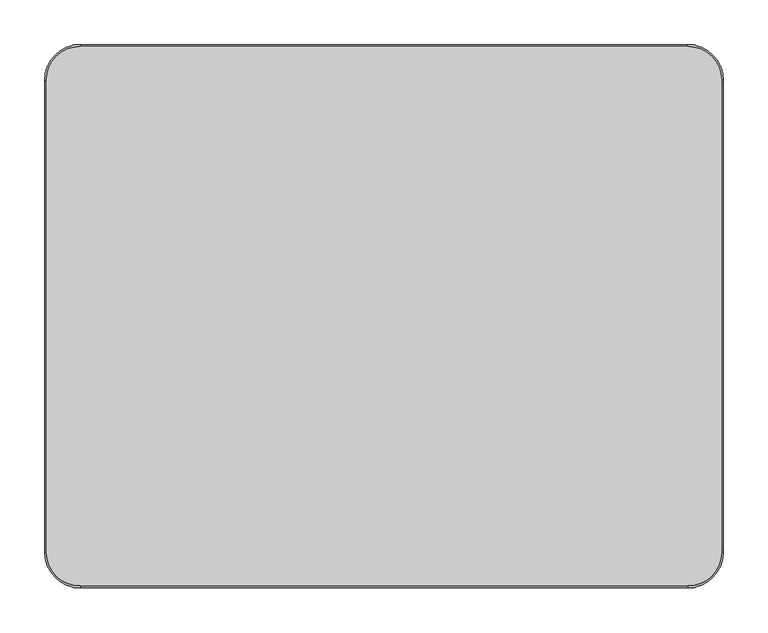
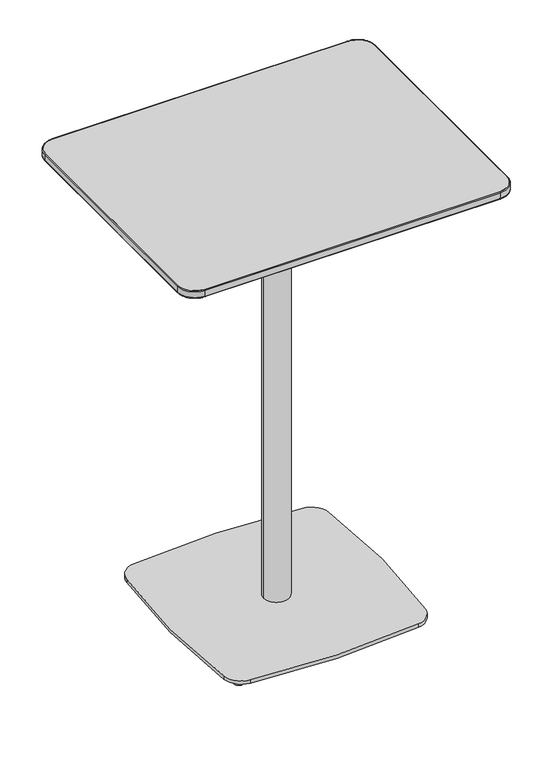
"""IFC4 building model written with IfcOpenShell, lengths in millimetres: furniture geometry, Coalesse_AM_Table_Occasional_Montara650Table_CafeHeight_Rectangular : Bar Height - 24D x 30W."""

from ifc_helpers import new_model, si_unit, point, frame, frame_2d, origin, place, context, project, spatial, polyline, circle_curve, ellipse_curve, trimmed, segment, composite_curve, outline, extrude, source, transform, mapped, element, save
from ifc_brep_helpers import plane_surface, cylinder_surface, revolved_surface, spline_surface, advanced_brep


def furniture_10a75f7b(model_context):
    return source(origin(), model_context, "Body", "SolidModel", [
        advanced_brep(
        [(-738.6535608, 215.2429015, 0.0), (-738.6535608, 194.5411546, 0.0), (-738.6535608, 219.370028, 11.9999882), (-738.6535608, 190.414028, 11.9999882)],
        [
            (0, 1, circle_curve(frame((-738.6535608, 204.892028, 0.0), z_axis=(0.0, 0.0, -1.0), x_axis=(0.0, 1.0, 0.0)), 10.3508735)),
            (1, 0, circle_curve(frame((-738.6535608, 204.892028, 0.0), z_axis=(0.0, 0.0, -1.0), x_axis=(0.0, -1.0, 0.0)), 10.3508735)),
            (2, 3, circle_curve(frame((-738.6535608, 204.892028, 11.9999882), z_axis=(0.0, 0.0, 1.0), x_axis=(0.0, -1.0, 0.0)), 14.478)),
            (3, 2, circle_curve(frame((-738.6535608, 204.892028, 11.9999882), z_axis=(0.0, 0.0, 1.0), x_axis=(0.0, 1.0, 0.0)), 14.478)),
            (2, 0),
            (1, 3),
        ],
        [
            plane_surface(frame((-738.6535608, 204.892028, 0.0), z_axis=(0.0, 0.0, -1.0), x_axis=(-1.0, 0.0, 0.0))),
            plane_surface(frame((-738.6535608, 204.892028, 11.9999882), z_axis=(0.0, 0.0, 1.0), x_axis=(-1.0, 0.0, 0.0))),
            revolved_surface(polyline([(-738.6535608, 194.5411545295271, 0.0), (-738.6535608, 190.414028, 11.999988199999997)]), (-738.6535608, 204.892028, -30.0960871), (0.0, 0.0, 1.0)),
            revolved_surface(polyline([(-738.6535608, 215.2429014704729, 0.0), (-738.6535608, 219.370028, 11.999988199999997)]), (-738.6535608, 204.892028, -30.0960871), (0.0, 0.0, 1.0)),
        ],
        [
            (0, [[1, 2]]),
            (1, [[3, 4]]),
            (2, [[-3, 5, -2, 6]]),
            (3, [[-4, -6, -1, -5]]),
        ],
    ),
        advanced_brep(
        [(-738.6535608, -194.5411546, 0.0), (-738.6535608, -215.2429015, 0.0), (-738.6535608, -190.414028, 11.9999882), (-738.6535608, -219.370028, 11.9999882)],
        [
            (0, 1, circle_curve(frame((-738.6535608, -204.892028, 0.0), z_axis=(0.0, 0.0, -1.0), x_axis=(0.0, 1.0, 0.0)), 10.3508735)),
            (1, 0, circle_curve(frame((-738.6535608, -204.892028, 0.0), z_axis=(0.0, 0.0, -1.0), x_axis=(0.0, -1.0, 0.0)), 10.3508735)),
            (2, 3, circle_curve(frame((-738.6535608, -204.892028, 11.9999882), z_axis=(0.0, 0.0, 1.0), x_axis=(0.0, -1.0, 0.0)), 14.478)),
            (3, 2, circle_curve(frame((-738.6535608, -204.892028, 11.9999882), z_axis=(0.0, 0.0, 1.0), x_axis=(0.0, 1.0, 0.0)), 14.478)),
            (3, 1),
            (0, 2),
        ],
        [
            plane_surface(frame((-738.6535608, -204.892028, 0.0), z_axis=(0.0, 0.0, -1.0), x_axis=(-1.0, 0.0, 0.0))),
            plane_surface(frame((-738.6535608, -204.892028, 11.9999882), z_axis=(0.0, 0.0, 1.0), x_axis=(-1.0, 0.0, 0.0))),
            revolved_surface(polyline([(-738.6535608, -194.5411545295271, 0.0), (-738.6535608, -190.414028, 11.999988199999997)]), (-738.6535608, -204.892028, -30.0960871), (0.0, 0.0, 1.0)),
            revolved_surface(polyline([(-738.6535608, -215.2429014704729, 0.0), (-738.6535608, -219.370028, 11.999988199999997)]), (-738.6535608, -204.892028, -30.0960871), (0.0, 0.0, 1.0)),
        ],
        [
            (0, [[1, 2]]),
            (1, [[3, 4]]),
            (2, [[-4, 5, -1, 6]]),
            (3, [[-3, -6, -2, -5]]),
        ],
    ),
        advanced_brep(
        [(-328.1464392, 194.5411546, 0.0), (-328.1464392, 215.2429015, 0.0), (-328.1464392, 190.414028, 11.9999882), (-328.1464392, 219.370028, 11.9999882)],
        [
            (0, 1, circle_curve(frame((-328.1464392, 204.892028, 0.0), z_axis=(0.0, 0.0, -1.0), x_axis=(0.0, -1.0, 0.0)), 10.3508735)),
            (1, 0, circle_curve(frame((-328.1464392, 204.892028, 0.0), z_axis=(0.0, 0.0, -1.0), x_axis=(0.0, 1.0, 0.0)), 10.3508735)),
            (2, 3, circle_curve(frame((-328.1464392, 204.892028, 11.9999882), z_axis=(0.0, 0.0, 1.0), x_axis=(0.0, 1.0, 0.0)), 14.478)),
            (3, 2, circle_curve(frame((-328.1464392, 204.892028, 11.9999882), z_axis=(0.0, 0.0, 1.0), x_axis=(0.0, -1.0, 0.0)), 14.478)),
            (3, 1),
            (0, 2),
        ],
        [
            plane_surface(frame((-328.1464392, 204.892028, 0.0), z_axis=(0.0, 0.0, -1.0), x_axis=(1.0, 0.0, 0.0))),
            plane_surface(frame((-328.1464392, 204.892028, 11.9999882), z_axis=(0.0, 0.0, 1.0), x_axis=(1.0, 0.0, 0.0))),
            revolved_surface(polyline([(-328.1464392, 194.5411545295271, 0.0), (-328.1464392, 190.414028, 11.999988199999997)]), (-328.1464392, 204.892028, -30.0960871), (0.0, 0.0, 1.0)),
            revolved_surface(polyline([(-328.1464392, 215.2429014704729, 0.0), (-328.1464392, 219.370028, 11.999988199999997)]), (-328.1464392, 204.892028, -30.0960871), (0.0, 0.0, 1.0)),
        ],
        [
            (0, [[1, 2]]),
            (1, [[3, 4]]),
            (2, [[-4, 5, -1, 6]]),
            (3, [[-3, -6, -2, -5]]),
        ],
    ),
        advanced_brep(
        [(-328.1464392, -215.2429015, 0.0), (-328.1464392, -194.5411546, 0.0), (-328.1464392, -219.370028, 11.9999882), (-328.1464392, -190.414028, 11.9999882)],
        [
            (0, 1, circle_curve(frame((-328.1464392, -204.892028, 0.0), z_axis=(0.0, 0.0, -1.0), x_axis=(0.0, -1.0, 0.0)), 10.3508735)),
            (1, 0, circle_curve(frame((-328.1464392, -204.892028, 0.0), z_axis=(0.0, 0.0, -1.0), x_axis=(0.0, 1.0, 0.0)), 10.3508735)),
            (2, 3, circle_curve(frame((-328.1464392, -204.892028, 11.9999882), z_axis=(0.0, 0.0, 1.0), x_axis=(0.0, 1.0, 0.0)), 14.478)),
            (3, 2, circle_curve(frame((-328.1464392, -204.892028, 11.9999882), z_axis=(0.0, 0.0, 1.0), x_axis=(0.0, -1.0, 0.0)), 14.478)),
            (2, 0),
            (1, 3),
        ],
        [
            plane_surface(frame((-328.1464392, -204.892028, 0.0), z_axis=(0.0, 0.0, -1.0), x_axis=(1.0, 0.0, 0.0))),
            plane_surface(frame((-328.1464392, -204.892028, 11.9999882), z_axis=(0.0, 0.0, 1.0), x_axis=(1.0, 0.0, 0.0))),
            revolved_surface(polyline([(-328.1464392, -194.5411545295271, 0.0), (-328.1464392, -190.414028, 11.999988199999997)]), (-328.1464392, -204.892028, -30.0960871), (0.0, 0.0, 1.0)),
            revolved_surface(polyline([(-328.1464392, -215.2429014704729, 0.0), (-328.1464392, -219.370028, 11.999988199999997)]), (-328.1464392, -204.892028, -30.0960871), (0.0, 0.0, 1.0)),
        ],
        [
            (0, [[1, 2]]),
            (1, [[3, 4]]),
            (2, [[-3, 5, -2, 6]]),
            (3, [[-4, -6, -1, -5]]),
        ],
    ),
        extrude(outline(composite_curve([segment(trimmed(circle_curve(frame_2d((-344.0811518, 188.9781952)), 44.45), [point((-338.9758413, 233.1340363))], [point((-299.9290283, 194.115557))], False, "CARTESIAN"), True, "CONTINUOUS"), segment(trimmed(circle_curve(frame_2d((-1930.9488879, 4.3367087)), 1642.0236885), [point((-299.9290283, 194.115557))], [point((-300.9116252, -193.704489))], False, "CARTESIAN"), True, "CONTINUOUS"), segment(trimmed(circle_curve(frame_2d((-345.0371496, -188.3434633)), 44.45), [point((-300.9116252, -193.704489))], [point((-339.4996689, -232.4471911))], False, "CARTESIAN"), True, "CONTINUOUS"), segment(trimmed(circle_curve(frame_2d((-537.7367152, 1346.4283112)), 1591.2717488), [point((-339.4996689, -232.4471911))], [point((-727.977927, -233.4305622))], False, "CARTESIAN"), True, "CONTINUOUS"), segment(trimmed(circle_curve(frame_2d((-722.663799, -189.2993652)), 44.45), [point((-727.977927, -233.4305622))], [point((-766.838325, -194.2403925))], False, "CARTESIAN"), True, "CONTINUOUS"), segment(trimmed(circle_curve(frame_2d((969.7397991, 5.89e-05)), 1747.4074894), [point((-766.838325, -194.2403925))], [point((-766.8410299, 194.2163254))], False, "CARTESIAN"), True, "CONTINUOUS"), segment(trimmed(circle_curve(frame_2d((-722.6664351, 189.2759133)), 44.45), [point((-766.8410299, 194.2163254))], [point((-727.7022914, 233.4397294))], False, "CARTESIAN"), True, "CONTINUOUS"), segment(trimmed(circle_curve(frame_2d((-534.6702107, -1459.4269529)), 1703.8365498), [point((-727.7022914, 233.4397294))], [point((-338.9758413, 233.1340363))], False, "CARTESIAN"), True, "CONTINUOUS")], self_intersect=False)), frame((0.0, 0.0, 11.999986), z_axis=(0.0, 0.0, 1.0), x_axis=(1.0, 0.0, 0.0)), (0.0, 0.0, 1.0), 8.0000105),
        advanced_brep(
        [(-217.3373638, 239.8635082, 1036.830027), (-217.3373638, -239.8635082, 1036.830027), (-849.4626362, -239.8635082, 1036.830027), (-849.4626362, 239.8635082, 1036.830027), (-192.611375, 302.768, 1049.095891), (-874.188625, 302.768, 1049.095891), (-912.288625, 264.668, 1049.095891), (-912.288625, -264.668, 1049.095891), (-874.188625, -302.768, 1049.095891), (-192.611375, -302.768, 1049.095891), (-154.511375, -264.668, 1049.095891), (-154.511375, 264.668, 1049.095891)],
        [
            (0, 1),
            (1, 2),
            (2, 3),
            (3, 0),
            (4, 5),
            (5, 6, circle_curve(frame((-874.188625, 264.668, 1049.095891), z_axis=(0.0, 0.0, 1.0), x_axis=(1.0, 0.0, 0.0)), 38.1)),
            (6, 7),
            (7, 8, circle_curve(frame((-874.188625, -264.668, 1049.095891), z_axis=(0.0, 0.0, 1.0), x_axis=(1.0, 0.0, 0.0)), 38.1)),
            (8, 9),
            (9, 10, circle_curve(frame((-192.611375, -264.668, 1049.095891), z_axis=(0.0, 0.0, 1.0), x_axis=(1.0, 0.0, 0.0)), 38.1)),
            (10, 11),
            (11, 4, circle_curve(frame((-192.611375, 264.668, 1049.095891), z_axis=(0.0, 0.0, 1.0), x_axis=(1.0, 0.0, 0.0)), 38.1)),
            (11, 0),
            (0, 4),
            (10, 1),
            (9, 1),
            (8, 2),
            (7, 2),
            (6, 3),
            (5, 3),
        ],
        [
            plane_surface(frame((-533.4, 0.0, 1036.830027), z_axis=(0.0, 0.0, -1.0), x_axis=(-1.0, 0.0, 0.0))),
            plane_surface(frame((-533.4, 0.0, 1049.095891), z_axis=(0.0, 0.0, 1.0), x_axis=(-1.0, 0.0, 0.0))),
            spline_surface(2, 1, [[(-192.611375, 302.768, 1049.095891), (-217.3373638, 239.8635082, 1036.830027)], [(-154.51137500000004, 302.7679999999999, 1049.095891), (-217.3373638, 239.8635082, 1036.830027)], [(-154.511375, 264.668, 1049.095891), (-217.3373638, 239.8635082, 1036.830027)]], [3, 3], [2, 2], [0.0, 1.0], [0.0, 1.0], weights=[[1.0, 1.0], [0.7071067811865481, 0.7071067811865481], [1.0, 1.0]]),
            plane_surface(frame((-154.511375, 0.0, 1049.095891), z_axis=(0.1916177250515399, 0.0, -0.9814696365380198), x_axis=(0.0, -1.0, 0.0))),
            spline_surface(2, 1, [[(-154.511375, -264.668, 1049.095891), (-217.3373638, -239.8635082, 1036.830027)], [(-154.51137499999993, -302.76800000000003, 1049.095891), (-217.3373638, -239.8635082, 1036.830027)], [(-192.611375, -302.768, 1049.095891), (-217.3373638, -239.8635082, 1036.830027)]], [3, 3], [2, 2], [0.0, 1.0], [0.0, 1.0], weights=[[1.0, 1.0], [0.707106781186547, 0.707106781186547], [1.0, 1.0]]),
            plane_surface(frame((-533.4, -302.768, 1049.095891), z_axis=(0.0, -0.1913873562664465, -0.9815145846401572), x_axis=(-1.0, 0.0, 0.0))),
            spline_surface(2, 1, [[(-874.188625, -302.768, 1049.095891), (-849.4626362, -239.8635082, 1036.830027)], [(-912.2886249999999, -302.7679999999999, 1049.095891), (-849.4626362, -239.8635082, 1036.830027)], [(-912.288625, -264.668, 1049.095891), (-849.4626362, -239.8635082, 1036.830027)]], [3, 3], [2, 2], [0.0, 1.0], [0.0, 1.0], weights=[[1.0, 1.0], [0.7071067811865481, 0.7071067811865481], [1.0, 1.0]]),
            plane_surface(frame((-912.288625, 0.0, 1049.095891), z_axis=(-0.19161772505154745, 0.0, -0.9814696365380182), x_axis=(0.0, 1.0, 0.0))),
            spline_surface(2, 1, [[(-912.288625, 264.668, 1049.095891), (-849.4626362, 239.8635082, 1036.830027)], [(-912.2886250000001, 302.76800000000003, 1049.095891), (-849.4626362, 239.8635082, 1036.830027)], [(-874.188625, 302.768, 1049.095891), (-849.4626362, 239.8635082, 1036.830027)]], [3, 3], [2, 2], [0.0, 1.0], [0.0, 1.0], weights=[[1.0, 1.0], [0.707106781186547, 0.707106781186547], [1.0, 1.0]]),
            plane_surface(frame((-533.4, 302.768, 1049.095891), z_axis=(0.0, 0.1913873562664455, -0.9815145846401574), x_axis=(1.0, 0.0, 0.0))),
        ],
        [
            (0, [[1, 2, 3, 4]]),
            (1, [[5, 6, 7, 8, 9, 10, 11, 12]]),
            (2, [[-12, 13, 14]]),
            (3, [[-11, 15, -1, -13]]),
            (4, [[-10, 16, -15]]),
            (5, [[-9, 17, -2, -16]]),
            (6, [[-8, 18, -17]]),
            (7, [[-7, 19, -3, -18]]),
            (8, [[-6, 20, -19]]),
            (9, [[-5, -14, -4, -20]]),
        ],
    ),
        extrude(outline(composite_curve([segment(trimmed(circle_curve(frame_2d((-192.611375, 264.668)), 38.1), [point((-192.611375, 302.768))], [point((-154.511375, 264.668))], False, "CARTESIAN"), True, "CONTINUOUS"), segment(polyline([(-154.511375, 264.668), (-154.511375, -264.668)]), True, "CONTINUOUS"), segment(trimmed(circle_curve(frame_2d((-192.611375, -264.668)), 38.1), [point((-154.511375, -264.668))], [point((-192.611375, -302.768))], False, "CARTESIAN"), True, "CONTINUOUS"), segment(polyline([(-192.611375, -302.768), (-874.188625, -302.768)]), True, "CONTINUOUS"), segment(trimmed(circle_curve(frame_2d((-874.188625, -264.668)), 38.1), [point((-874.188625, -302.768))], [point((-912.288625, -264.668))], False, "CARTESIAN"), True, "CONTINUOUS"), segment(polyline([(-912.288625, -264.668), (-912.288625, 264.668)]), True, "CONTINUOUS"), segment(trimmed(circle_curve(frame_2d((-874.188625, 264.668)), 38.1), [point((-912.288625, 264.668))], [point((-874.188625, 302.768))], False, "CARTESIAN"), True, "CONTINUOUS"), segment(polyline([(-874.188625, 302.768), (-192.611375, 302.768)]), True, "CONTINUOUS")], self_intersect=False)), frame((0.0, 0.0, 1049.095891), z_axis=(0.0, 0.0, 1.0), x_axis=(1.0, 0.0, 0.0)), (0.0, 0.0, 1.0), 17.704109),
        advanced_brep(
        [(-914.3644915, 264.668, 1051.0278467), (-874.188625, 304.8438665, 1051.0278467), (-874.188625, 302.768, 1049.095891), (-912.288625, 264.668, 1049.095891), (-914.3644915, 264.668, 1064.7999283), (-874.188625, 304.8438665, 1064.7999283), (-912.288625, 264.668, 1066.8), (-874.188625, 302.768, 1066.8), (-912.288625, -264.668, 1049.095891), (-914.3644915, -264.668, 1051.0278467), (-914.3644915, -264.668, 1064.7999283), (-912.288625, -264.668, 1066.8), (-874.188625, -304.8438665, 1051.0278467), (-874.188625, -302.768, 1049.095891), (-874.188625, -304.8438665, 1064.7999283), (-874.188625, -302.768, 1066.8), (-192.611375, -302.768, 1049.095891), (-192.611375, -304.8438665, 1051.0278467), (-192.611375, -304.8438665, 1064.7999283), (-192.611375, -302.768, 1066.8), (-152.4355085, -264.668, 1051.0278467), (-154.511375, -264.668, 1049.095891), (-152.4355085, -264.668, 1064.7999283), (-154.511375, -264.668, 1066.8), (-154.511375, 264.668, 1049.095891), (-152.4355085, 264.668, 1051.0278467), (-152.4355085, 264.668, 1064.7999283), (-154.511375, 264.668, 1066.8), (-192.611375, 304.8438665, 1051.0278467), (-192.611375, 302.768, 1049.095891), (-192.611375, 304.8438665, 1064.7999283), (-192.611375, 302.768, 1066.8)],
        [
            (0, 1, circle_curve(frame((-874.188625, 264.668, 1051.0278467), z_axis=(0.0, 0.0, -1.0), x_axis=(0.0, 1.0, 0.0)), 40.1758665)),
            (1, 2, circle_curve(frame((-874.188625, 302.9069224, 1051.0278467), z_axis=(-1.0, 0.0, 0.0), x_axis=(0.0, -1.0, 0.0)), 1.9369441)),
            (2, 3, circle_curve(frame((-874.188625, 264.668, 1049.095891), z_axis=(0.0, 0.0, 1.0), x_axis=(0.0, 1.0, 0.0)), 38.1)),
            (3, 0, circle_curve(frame((-912.4275474, 264.668, 1051.0278467), z_axis=(0.0, 1.0, 0.0), x_axis=(1.0, 0.0, 0.0)), 1.9369441)),
            (4, 5, circle_curve(frame((-874.188625, 264.668, 1064.7999283), z_axis=(0.0, 0.0, -1.0), x_axis=(0.0, 1.0, 0.0)), 40.1758665)),
            (5, 1),
            (0, 4),
            (6, 7, circle_curve(frame((-874.188625, 264.668, 1066.8), z_axis=(0.0, 0.0, -1.0), x_axis=(0.0, 1.0, 0.0)), 38.1)),
            (7, 5, circle_curve(frame((-874.188625, 302.8424111, 1064.7999283), z_axis=(-1.0, 0.0, 0.0), x_axis=(0.0, -1.0, 0.0)), 2.0014554)),
            (4, 6, circle_curve(frame((-912.3630361, 264.668, 1064.7999283), z_axis=(0.0, 1.0, 0.0), x_axis=(1.0, 0.0, 0.0)), 2.0014554)),
            (2, 7),
            (6, 3),
            (3, 8),
            (8, 9, circle_curve(frame((-912.4275474, -264.668, 1051.0278467), z_axis=(0.0, 1.0, 0.0), x_axis=(1.0, 0.0, 0.0)), 1.9369441)),
            (9, 0),
            (9, 10),
            (10, 4),
            (10, 11, circle_curve(frame((-912.3630361, -264.668, 1064.7999283), z_axis=(0.0, 1.0, 0.0), x_axis=(1.0, 0.0, 0.0)), 2.0014554)),
            (11, 6),
            (11, 8),
            (12, 9, circle_curve(frame((-874.188625, -264.668, 1051.0278467), z_axis=(0.0, 0.0, -1.0), x_axis=(-1.0, 0.0, 0.0)), 40.1758665)),
            (8, 13, circle_curve(frame((-874.188625, -264.668, 1049.095891), z_axis=(0.0, 0.0, 1.0), x_axis=(-1.0, 0.0, 0.0)), 38.1)),
            (13, 12, circle_curve(frame((-874.188625, -302.9069224, 1051.0278467), z_axis=(-1.0, 0.0, 0.0), x_axis=(0.0, 1.0, 0.0)), 1.9369441)),
            (14, 10, circle_curve(frame((-874.188625, -264.668, 1064.7999283), z_axis=(0.0, 0.0, -1.0), x_axis=(-1.0, 0.0, 0.0)), 40.1758665)),
            (12, 14),
            (15, 11, circle_curve(frame((-874.188625, -264.668, 1066.8), z_axis=(0.0, 0.0, -1.0), x_axis=(-1.0, 0.0, 0.0)), 38.1)),
            (14, 15, circle_curve(frame((-874.188625, -302.8424111, 1064.7999283), z_axis=(-1.0, 0.0, 0.0), x_axis=(0.0, 1.0, 0.0)), 2.0014554)),
            (15, 13),
            (13, 16),
            (16, 17, circle_curve(frame((-192.611375, -302.9069224, 1051.0278467), z_axis=(-1.0, 0.0, 0.0), x_axis=(0.0, 1.0, 0.0)), 1.9369441)),
            (17, 12),
            (17, 18),
            (18, 14),
            (18, 19, circle_curve(frame((-192.611375, -302.8424111, 1064.7999283), z_axis=(-1.0, 0.0, 0.0), x_axis=(0.0, 1.0, 0.0)), 2.0014554)),
            (19, 15),
            (19, 16),
            (20, 17, circle_curve(frame((-192.611375, -264.668, 1051.0278467), z_axis=(0.0, 0.0, -1.0), x_axis=(0.0, -1.0, 0.0)), 40.1758665)),
            (16, 21, circle_curve(frame((-192.611375, -264.668, 1049.095891), z_axis=(0.0, 0.0, 1.0), x_axis=(0.0, -1.0, 0.0)), 38.1)),
            (21, 20, circle_curve(frame((-154.3724526, -264.668, 1051.0278467), z_axis=(0.0, -1.0, 0.0), x_axis=(-1.0, 0.0, 0.0)), 1.9369441)),
            (22, 18, circle_curve(frame((-192.611375, -264.668, 1064.7999283), z_axis=(0.0, 0.0, -1.0), x_axis=(0.0, -1.0, 0.0)), 40.1758665)),
            (20, 22),
            (23, 19, circle_curve(frame((-192.611375, -264.668, 1066.8), z_axis=(0.0, 0.0, -1.0), x_axis=(0.0, -1.0, 0.0)), 38.1)),
            (22, 23, circle_curve(frame((-154.4369639, -264.668, 1064.7999283), z_axis=(0.0, -1.0, 0.0), x_axis=(-1.0, 0.0, 0.0)), 2.0014554)),
            (23, 21),
            (21, 24),
            (24, 25, circle_curve(frame((-154.3724526, 264.668, 1051.0278467), z_axis=(0.0, -1.0, 0.0), x_axis=(-1.0, 0.0, 0.0)), 1.9369441)),
            (25, 20),
            (25, 26),
            (26, 22),
            (26, 27, circle_curve(frame((-154.4369639, 264.668, 1064.7999283), z_axis=(0.0, -1.0, 0.0), x_axis=(-1.0, 0.0, 0.0)), 2.0014554)),
            (27, 23),
            (27, 24),
            (28, 25, circle_curve(frame((-192.611375, 264.668, 1051.0278467), z_axis=(0.0, 0.0, -1.0), x_axis=(1.0, 0.0, 0.0)), 40.1758665)),
            (24, 29, circle_curve(frame((-192.611375, 264.668, 1049.095891), z_axis=(0.0, 0.0, 1.0), x_axis=(1.0, 0.0, 0.0)), 38.1)),
            (29, 28, circle_curve(frame((-192.611375, 302.9069224, 1051.0278467), z_axis=(1.0, 0.0, 0.0), x_axis=(0.0, -1.0, 0.0)), 1.9369441)),
            (30, 26, circle_curve(frame((-192.611375, 264.668, 1064.7999283), z_axis=(0.0, 0.0, -1.0), x_axis=(1.0, 0.0, 0.0)), 40.1758665)),
            (28, 30),
            (31, 27, circle_curve(frame((-192.611375, 264.668, 1066.8), z_axis=(0.0, 0.0, -1.0), x_axis=(1.0, 0.0, 0.0)), 38.1)),
            (30, 31, circle_curve(frame((-192.611375, 302.8424111, 1064.7999283), z_axis=(1.0, 0.0, 0.0), x_axis=(0.0, -1.0, 0.0)), 2.0014554)),
            (31, 29),
            (29, 2),
            (1, 28),
            (5, 30),
            (7, 31),
        ],
        [
            revolved_surface(trimmed(ellipse_curve(frame((-874.188625, 302.9069224, 1051.0278467), z_axis=(1.0, 0.0, 0.0), x_axis=(0.0, -1.0, 0.0)), 1.9369441, 1.9369441), [point((-874.188625, 302.768, 1049.095891))], [point((-874.188625, 304.8438665, 1051.0278467))], True, "CARTESIAN"), (-874.188625, 264.668, 0.0), (0.0, 0.0, 1.0)),
            cylinder_surface(frame((-874.188625, 264.668, 0.0), z_axis=(0.0, 0.0, 1.0), x_axis=(0.0, 1.0, 0.0)), 40.1758665),
            revolved_surface(trimmed(ellipse_curve(frame((-874.188625, 302.8424111, 1064.7999283), z_axis=(1.0, 0.0, 0.0), x_axis=(0.0, -1.0, 0.0)), 2.0014554, 2.0014554), [point((-874.188625, 304.8438665, 1064.7999283))], [point((-874.188625, 302.768, 1066.8))], True, "CARTESIAN"), (-874.188625, 264.668, 0.0), (0.0, 0.0, 1.0)),
            revolved_surface(polyline([(-874.188625, 302.76800000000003, 1066.8), (-874.188625, 302.76800000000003, 1049.095891)]), (-874.188625, 264.668, 0.0), (0.0, 0.0, 1.0)),
            cylinder_surface(frame((-912.4275474, 264.668, 1051.0278467), z_axis=(0.0, 1.0, 0.0), x_axis=(1.0, 0.0, 0.0)), 1.9369441),
            plane_surface(frame((-914.3644915, 264.668, 1051.0278467), z_axis=(-1.0, 0.0, 0.0), x_axis=(0.0, -1.0, 0.0))),
            cylinder_surface(frame((-912.3630361, 264.668, 1064.7999283), z_axis=(0.0, 1.0, 0.0), x_axis=(1.0, 0.0, 0.0)), 2.0014554),
            plane_surface(frame((-912.288625, 264.668, 1066.8), z_axis=(1.0, 0.0, 0.0), x_axis=(0.0, -1.0, 0.0))),
            revolved_surface(trimmed(ellipse_curve(frame((-912.4275474, -264.668, 1051.0278467), z_axis=(0.0, 1.0, 0.0), x_axis=(1.0, 0.0, 0.0)), 1.9369441, 1.9369441), [point((-912.288625, -264.668, 1049.095891))], [point((-914.3644915, -264.668, 1051.0278467))], True, "CARTESIAN"), (-874.188625, -264.668, 0.0), (0.0, 0.0, 1.0)),
            cylinder_surface(frame((-874.188625, -264.668, 0.0), z_axis=(0.0, 0.0, 1.0), x_axis=(-1.0, 0.0, 0.0)), 40.1758665),
            revolved_surface(trimmed(ellipse_curve(frame((-912.3630361, -264.668, 1064.7999283), z_axis=(0.0, 1.0, 0.0), x_axis=(1.0, 0.0, 0.0)), 2.0014554, 2.0014554), [point((-914.3644915, -264.668, 1064.7999283))], [point((-912.288625, -264.668, 1066.8))], True, "CARTESIAN"), (-874.188625, -264.668, 0.0), (0.0, 0.0, 1.0)),
            revolved_surface(polyline([(-912.288625, -264.668, 1066.8), (-912.288625, -264.668, 1049.095891)]), (-874.188625, -264.668, 0.0), (0.0, 0.0, 1.0)),
            cylinder_surface(frame((-874.188625, -302.9069224, 1051.0278467), z_axis=(-1.0, 0.0, 0.0), x_axis=(0.0, 1.0, 0.0)), 1.9369441),
            plane_surface(frame((-874.188625, -304.8438665, 1051.0278467), z_axis=(0.0, -1.0, 0.0), x_axis=(1.0, 0.0, 0.0))),
            cylinder_surface(frame((-874.188625, -302.8424111, 1064.7999283), z_axis=(-1.0, 0.0, 0.0), x_axis=(0.0, 1.0, 0.0)), 2.0014554),
            plane_surface(frame((-874.188625, -302.768, 1066.8), z_axis=(0.0, 1.0, 0.0), x_axis=(1.0, 0.0, 0.0))),
            revolved_surface(trimmed(ellipse_curve(frame((-192.611375, -302.9069224, 1051.0278467), z_axis=(-1.0, 0.0, 0.0), x_axis=(0.0, 1.0, 0.0)), 1.9369441, 1.9369441), [point((-192.611375, -302.768, 1049.095891))], [point((-192.611375, -304.8438665, 1051.0278467))], True, "CARTESIAN"), (-192.611375, -264.668, 0.0), (0.0, 0.0, 1.0)),
            cylinder_surface(frame((-192.611375, -264.668, 0.0), z_axis=(0.0, 0.0, 1.0), x_axis=(0.0, -1.0, 0.0)), 40.1758665),
            revolved_surface(trimmed(ellipse_curve(frame((-192.611375, -302.8424111, 1064.7999283), z_axis=(-1.0, 0.0, 0.0), x_axis=(0.0, 1.0, 0.0)), 2.0014554, 2.0014554), [point((-192.611375, -304.8438665, 1064.7999283))], [point((-192.611375, -302.768, 1066.8))], True, "CARTESIAN"), (-192.611375, -264.668, 0.0), (0.0, 0.0, 1.0)),
            revolved_surface(polyline([(-192.611375, -302.76800000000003, 1066.8), (-192.611375, -302.76800000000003, 1049.095891)]), (-192.611375, -264.668, 0.0), (0.0, 0.0, 1.0)),
            cylinder_surface(frame((-154.3724526, -264.668, 1051.0278467), z_axis=(0.0, -1.0, 0.0), x_axis=(-1.0, 0.0, 0.0)), 1.9369441),
            plane_surface(frame((-152.4355085, -264.668, 1051.0278467), z_axis=(1.0, 0.0, 0.0), x_axis=(0.0, 1.0, 0.0))),
            cylinder_surface(frame((-154.4369639, -264.668, 1064.7999283), z_axis=(0.0, -1.0, 0.0), x_axis=(-1.0, 0.0, 0.0)), 2.0014554),
            plane_surface(frame((-154.511375, -264.668, 1066.8), z_axis=(-1.0, 0.0, 0.0), x_axis=(0.0, 1.0, 0.0))),
            revolved_surface(trimmed(ellipse_curve(frame((-154.3724526, 264.668, 1051.0278467), z_axis=(0.0, -1.0, 0.0), x_axis=(-1.0, 0.0, 0.0)), 1.9369441, 1.9369441), [point((-154.511375, 264.668, 1049.095891))], [point((-152.4355085, 264.668, 1051.0278467))], True, "CARTESIAN"), (-192.611375, 264.668, 0.0), (0.0, 0.0, 1.0)),
            cylinder_surface(frame((-192.611375, 264.668, 0.0), z_axis=(0.0, 0.0, 1.0), x_axis=(1.0, 0.0, 0.0)), 40.1758665),
            revolved_surface(trimmed(ellipse_curve(frame((-154.4369639, 264.668, 1064.7999283), z_axis=(0.0, -1.0, 0.0), x_axis=(-1.0, 0.0, 0.0)), 2.0014554, 2.0014554), [point((-152.4355085, 264.668, 1064.7999283))], [point((-154.511375, 264.668, 1066.8))], True, "CARTESIAN"), (-192.611375, 264.668, 0.0), (0.0, 0.0, 1.0)),
            revolved_surface(polyline([(-154.51137500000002, 264.668, 1066.8), (-154.51137500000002, 264.668, 1049.095891)]), (-192.611375, 264.668, 0.0), (0.0, 0.0, 1.0)),
            cylinder_surface(frame((-192.611375, 302.9069224, 1051.0278467), z_axis=(1.0, 0.0, 0.0), x_axis=(0.0, -1.0, 0.0)), 1.9369441),
            plane_surface(frame((-192.611375, 304.8438665, 1051.0278467), z_axis=(0.0, 1.0, 0.0), x_axis=(-1.0, 0.0, 0.0))),
            cylinder_surface(frame((-192.611375, 302.8424111, 1064.7999283), z_axis=(1.0, 0.0, 0.0), x_axis=(0.0, -1.0, 0.0)), 2.0014554),
            plane_surface(frame((-192.611375, 302.768, 1066.8), z_axis=(0.0, -1.0, 0.0), x_axis=(-1.0, 0.0, 0.0))),
        ],
        [
            (0, [[1, 2, 3, 4]]),
            (1, [[5, 6, -1, 7]]),
            (2, [[8, 9, -5, 10]]),
            (3, [[-3, 11, -8, 12]]),
            (4, [[-4, 13, 14, 15]]),
            (5, [[-7, -15, 16, 17]]),
            (6, [[-10, -17, 18, 19]]),
            (7, [[-12, -19, 20, -13]]),
            (8, [[21, -14, 22, 23]]),
            (9, [[24, -16, -21, 25]]),
            (10, [[26, -18, -24, 27]]),
            (11, [[-22, -20, -26, 28]]),
            (12, [[-23, 29, 30, 31]]),
            (13, [[-25, -31, 32, 33]]),
            (14, [[-27, -33, 34, 35]]),
            (15, [[-28, -35, 36, -29]]),
            (16, [[37, -30, 38, 39]]),
            (17, [[40, -32, -37, 41]]),
            (18, [[42, -34, -40, 43]]),
            (19, [[-38, -36, -42, 44]]),
            (20, [[-39, 45, 46, 47]]),
            (21, [[-41, -47, 48, 49]]),
            (22, [[-43, -49, 50, 51]]),
            (23, [[-44, -51, 52, -45]]),
            (24, [[53, -46, 54, 55]]),
            (25, [[56, -48, -53, 57]]),
            (26, [[58, -50, -56, 59]]),
            (27, [[-54, -52, -58, 60]]),
            (28, [[-55, 61, -2, 62]]),
            (29, [[-57, -62, -6, 63]]),
            (30, [[-59, -63, -9, 64]]),
            (31, [[-60, -64, -11, -61]]),
        ],
    ),
        advanced_brep(
        [(-401.7995899, 0.0, 1033.655027), (-665.0004101, 0.0, 1033.655027), (-709.5626132, 0.0, 1033.655027), (-357.2373868, 0.0, 1033.655027), (-412.3511338, 0.0, 1032.5460151), (-654.4488662, 0.0, 1032.5460151), (-484.6538191, 0.0, 1017.8837029), (-582.1461809, 0.0, 1017.8837029), (-495.987015, 0.0, 1017.8837029), (-570.812985, 0.0, 1017.8837029), (-503.8504172, 0.0, 19.9999965), (-562.9495828, 0.0, 19.9999965), (-562.9495828, 0.0, 1029.6852036), (-503.8504172, 0.0, 1029.6852036), (-533.4, 0.0, 19.9999965), (-357.2373868, 0.0, 1036.830027), (-709.5626132, 0.0, 1036.830027), (-533.4, 0.0, 1036.830027), (-500.0488913, 0.0, 1019.3383874), (-566.7511087, 0.0, 1019.3383874), (-501.687666, 0.0, 1029.6852036), (-565.112334, 0.0, 1029.6852036)],
        [
            (0, 1, circle_curve(frame((-533.4, 0.0, 1033.655027), z_axis=(0.0, 0.0, 1.0), x_axis=(-1.0, 0.0, 0.0)), 131.6004101)),
            (1, 2),
            (2, 3, circle_curve(frame((-533.4, 0.0, 1033.655027), z_axis=(0.0, 0.0, -1.0), x_axis=(-1.0, 0.0, 0.0)), 176.1626132)),
            (3, 0),
            (1, 0, circle_curve(frame((-533.4, 0.0, 1033.655027), z_axis=(0.0, 0.0, 1.0), x_axis=(-1.0, 0.0, 0.0)), 131.6004101)),
            (3, 2, circle_curve(frame((-533.4, 0.0, 1033.655027), z_axis=(0.0, 0.0, -1.0), x_axis=(-1.0, 0.0, 0.0)), 176.1626132)),
            (4, 5, circle_curve(frame((-533.4, 0.0, 1032.5460151), z_axis=(0.0, 0.0, 1.0), x_axis=(-1.0, 0.0, 0.0)), 121.0488662)),
            (5, 1),
            (0, 4),
            (5, 4, circle_curve(frame((-533.4, 0.0, 1032.5460151), z_axis=(0.0, 0.0, 1.0), x_axis=(-1.0, 0.0, 0.0)), 121.0488662)),
            (6, 7, circle_curve(frame((-533.4, 0.0, 1017.8837029), z_axis=(0.0, 0.0, 1.0), x_axis=(-1.0, 0.0, 0.0)), 48.7461809)),
            (7, 5),
            (4, 6),
            (7, 6, circle_curve(frame((-533.4, 0.0, 1017.8837029), z_axis=(0.0, 0.0, 1.0), x_axis=(-1.0, 0.0, 0.0)), 48.7461809)),
            (8, 9, circle_curve(frame((-533.4, 0.0, 1017.8837029), z_axis=(0.0, 0.0, 1.0), x_axis=(-1.0, 0.0, 0.0)), 37.412985)),
            (9, 7),
            (6, 8),
            (9, 8, circle_curve(frame((-533.4, 0.0, 1017.8837029), z_axis=(0.0, 0.0, 1.0), x_axis=(-1.0, 0.0, 0.0)), 37.412985)),
            (10, 11, circle_curve(frame((-533.4, 0.0, 19.9999965), z_axis=(0.0, 0.0, 1.0), x_axis=(-1.0, 0.0, 0.0)), 29.5495828)),
            (11, 12),
            (12, 13, circle_curve(frame((-533.4, 0.0, 1029.6852036), z_axis=(0.0, 0.0, -1.0), x_axis=(-1.0, 0.0, 0.0)), 29.5495828)),
            (13, 10),
            (11, 10, circle_curve(frame((-533.4, 0.0, 19.9999965), z_axis=(0.0, 0.0, 1.0), x_axis=(-1.0, 0.0, 0.0)), 29.5495828)),
            (13, 12, circle_curve(frame((-533.4, 0.0, 1029.6852036), z_axis=(0.0, 0.0, -1.0), x_axis=(-1.0, 0.0, 0.0)), 29.5495828)),
            (14, 11),
            (10, 14),
            (15, 16, circle_curve(frame((-533.4, 0.0, 1036.830027), z_axis=(0.0, 0.0, 1.0), x_axis=(-1.0, 0.0, 0.0)), 176.1626132)),
            (16, 17),
            (17, 15),
            (16, 15, circle_curve(frame((-533.4, 0.0, 1036.830027), z_axis=(0.0, 0.0, 1.0), x_axis=(-1.0, 0.0, 0.0)), 176.1626132)),
            (2, 16),
            (15, 3),
            (18, 19, circle_curve(frame((-533.4, 0.0, 1019.3383874), z_axis=(0.0, 0.0, 1.0), x_axis=(-1.0, 0.0, 0.0)), 33.3511087)),
            (19, 9),
            (8, 18),
            (19, 18, circle_curve(frame((-533.4, 0.0, 1019.3383874), z_axis=(0.0, 0.0, 1.0), x_axis=(-1.0, 0.0, 0.0)), 33.3511087)),
            (20, 21, circle_curve(frame((-533.4, 0.0, 1029.6852036), z_axis=(0.0, 0.0, 1.0), x_axis=(-1.0, 0.0, 0.0)), 31.712334)),
            (21, 19),
            (18, 20),
            (21, 20, circle_curve(frame((-533.4, 0.0, 1029.6852036), z_axis=(0.0, 0.0, 1.0), x_axis=(-1.0, 0.0, 0.0)), 31.712334)),
            (12, 21),
            (20, 13),
        ],
        [
            plane_surface(frame((-533.4, 0.0, 1033.655027), z_axis=(0.0, 0.0, -1.0), x_axis=(-1.0, 0.0, 0.0))),
            revolved_surface(polyline([(-665.0004101, 0.0, 1033.655027), (-654.4488662, 0.0, 1032.5460151)]), (-533.4, 0.0, 908.9999965), (0.0, 0.0, -1.0)),
            revolved_surface(polyline([(-654.4488662, 0.0, 1032.5460151), (-582.1461809, 0.0, 1017.8837029)]), (-533.4, 0.0, 908.9999965), (0.0, 0.0, -1.0)),
            plane_surface(frame((-533.4, 0.0, 1017.8837029), z_axis=(0.0, 0.0, -1.0), x_axis=(-1.0, 0.0, 0.0))),
            cylinder_surface(frame((-533.4, 0.0, 908.9999965), z_axis=(0.0, 0.0, -1.0), x_axis=(-1.0, 0.0, 0.0)), 29.5495828),
            plane_surface(frame((-533.4, 0.0, 19.9999965), z_axis=(0.0, 0.0, -1.0), x_axis=(-1.0, 0.0, 0.0))),
            plane_surface(frame((-533.4, 0.0, 1036.830027), z_axis=(0.0, 0.0, 1.0), x_axis=(-1.0, 0.0, 0.0))),
            cylinder_surface(frame((-533.4, 0.0, 908.9999965), z_axis=(0.0, 0.0, -1.0), x_axis=(-1.0, 0.0, 0.0)), 176.1626132),
            revolved_surface(polyline([(-570.812985, 0.0, 1017.8837029), (-566.7511087, 0.0, 1019.3383874)]), (-533.4, 0.0, 908.9999965), (0.0, 0.0, -1.0)),
            revolved_surface(polyline([(-566.7511087, 0.0, 1019.3383874), (-565.112334, 0.0, 1029.6852036)]), (-533.4, 0.0, 908.9999965), (0.0, 0.0, -1.0)),
            plane_surface(frame((-533.4, 0.0, 1029.6852036), z_axis=(0.0, 0.0, -1.0), x_axis=(-1.0, 0.0, 0.0))),
        ],
        [
            (0, [[1, 2, 3, 4]]),
            (0, [[5, -4, 6, -2]]),
            (1, [[7, 8, -1, 9]]),
            (1, [[10, -9, -5, -8]]),
            (2, [[11, 12, -7, 13]]),
            (2, [[14, -13, -10, -12]]),
            (3, [[15, 16, -11, 17]]),
            (3, [[18, -17, -14, -16]]),
            (4, [[19, 20, 21, 22]]),
            (4, [[23, -22, 24, -20]]),
            (5, [[25, -19, 26]]),
            (5, [[-26, -23, -25]]),
            (6, [[27, 28, 29]]),
            (6, [[30, -29, -28]]),
            (7, [[-3, 31, -27, 32]]),
            (7, [[-6, -32, -30, -31]]),
            (8, [[33, 34, -15, 35]]),
            (8, [[36, -35, -18, -34]]),
            (9, [[37, 38, -33, 39]]),
            (9, [[40, -39, -36, -38]]),
            (10, [[-21, 41, -37, 42]]),
            (10, [[-24, -42, -40, -41]]),
        ],
    ),
    ])


if __name__ == "__main__":
    model = new_model("IFC4")
    model_context = context("Model", 3, world=origin())
    ifc_project = project(units=[si_unit("LENGTHUNIT", "METRE", prefix="MILLI")], contexts=[model_context])
    site = spatial("IfcSite", under=ifc_project)
    building = spatial("IfcBuilding", under=site)
    placement = place(None, origin())
    furniture_shape = furniture_10a75f7b(model_context)
    element("IfcFurniture", 1, ObjectType="Coalesse_AM_Table_Occasional_Montara650Table_CafeHeight_Rectangular : Bar Height - 24D x 30W", at=placement, inside=building, context=model_context, shape_type="MappedRepresentation", body=[
        mapped(furniture_shape, transform((0.0, 0.0, 0.0), x_axis=(1.0, 0.0, 0.0), y_axis=(0.0, 1.0, 0.0), z_axis=(0.0, 0.0, 1.0))),
    ])
    save(model, "model.ifc")
